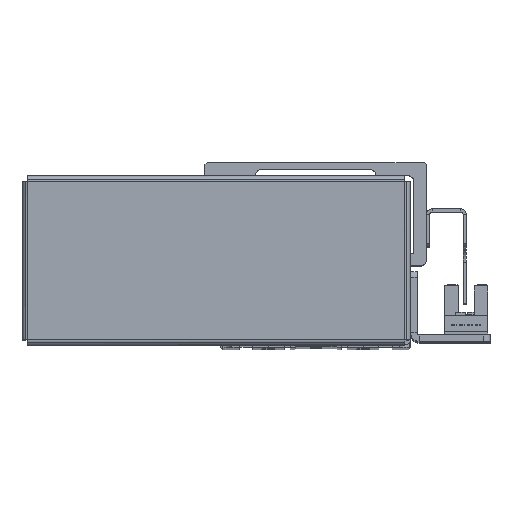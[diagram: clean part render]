
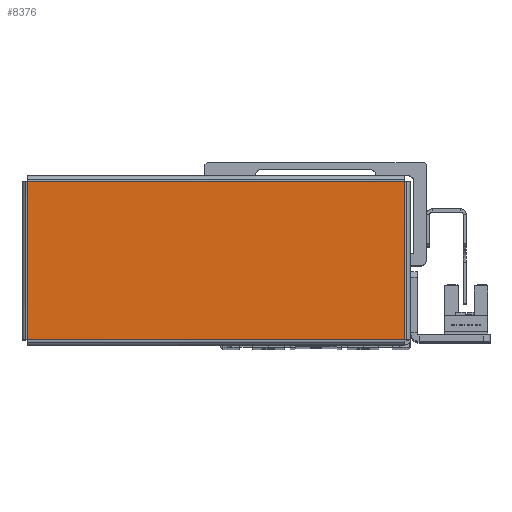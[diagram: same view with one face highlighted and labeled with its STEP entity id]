
A CAD part, top view. The second image highlights one B-rep face of the part: STEP entity #8376.
In plain terms, the highlighted planar face has unit normal (0, 0, 1) as drawn and (0, 0, -1) by its records, which use the part's own axes.
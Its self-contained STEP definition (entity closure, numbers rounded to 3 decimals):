
#1415 = AXIS2_PLACEMENT_3D ( 'NONE', #12495, #12518, #12519 ) ;
#3443 = EDGE_LOOP ( 'NONE', ( #6567, #6573, #6556, #6574 ) ) ;
#3540 = VERTEX_POINT ( 'NONE', #11900 ) ;
#3543 = VERTEX_POINT ( 'NONE', #11913 ) ;
#3580 = VERTEX_POINT ( 'NONE', #11962 ) ;
#3603 = VERTEX_POINT ( 'NONE', #11953 ) ;
#6556 = ORIENTED_EDGE ( 'NONE', *, *, #28101, .T. ) ;
#6567 = ORIENTED_EDGE ( 'NONE', *, *, #28210, .T. ) ;
#6573 = ORIENTED_EDGE ( 'NONE', *, *, #28187, .T. ) ;
#6574 = ORIENTED_EDGE ( 'NONE', *, *, #28133, .T. ) ;
#8376 = ADVANCED_FACE ( 'NONE', ( #10421 ), #12498, .F. ) ;
#10421 = FACE_OUTER_BOUND ( 'NONE', #3443, .T. ) ;
#11900 = CARTESIAN_POINT ( 'NONE',  ( -59.513, 25.013, -1. ) ) ;
#11913 = CARTESIAN_POINT ( 'NONE',  ( 59.513, 25.013, -1. ) ) ;
#11953 = CARTESIAN_POINT ( 'NONE',  ( 59.513, -25.013, -1. ) ) ;
#11962 = CARTESIAN_POINT ( 'NONE',  ( -59.513, -25.013, -1. ) ) ;
#12495 = CARTESIAN_POINT ( 'NONE',  ( 0., 0., -1. ) ) ;
#12498 = PLANE ( 'NONE',  #1415 ) ;
#12518 = DIRECTION ( 'NONE',  ( 0., 0., 1. ) ) ;
#12519 = DIRECTION ( 'NONE',  ( 1., 0., 0. ) ) ;
#17114 = DIRECTION ( 'NONE',  ( 0., 1., 0. ) ) ;
#17142 = CARTESIAN_POINT ( 'NONE',  ( -59.513, -25.043, -1. ) ) ;
#17256 = DIRECTION ( 'NONE',  ( 1., 0., 0. ) ) ;
#17267 = CARTESIAN_POINT ( 'NONE',  ( -59.543, 25.013, -1. ) ) ;
#17366 = DIRECTION ( 'NONE',  ( -1., 0., 0. ) ) ;
#17386 = CARTESIAN_POINT ( 'NONE',  ( 59.543, -25.013, -1. ) ) ;
#17424 = CARTESIAN_POINT ( 'NONE',  ( 59.513, 25.043, -1. ) ) ;
#17435 = DIRECTION ( 'NONE',  ( 0., -1., 0. ) ) ;
#18866 = LINE ( 'NONE', #17142, #18892 ) ;
#18892 = VECTOR ( 'NONE', #17114, 1000. ) ;
#18902 = LINE ( 'NONE', #17267, #18936 ) ;
#18936 = VECTOR ( 'NONE', #17256, 1000. ) ;
#18983 = LINE ( 'NONE', #17386, #18984 ) ;
#18984 = VECTOR ( 'NONE', #17366, 1000. ) ;
#19064 = LINE ( 'NONE', #17424, #19065 ) ;
#19065 = VECTOR ( 'NONE', #17435, 1000. ) ;
#28101 = EDGE_CURVE ( 'NONE', #3580, #3540, #18866, .T. ) ;
#28133 = EDGE_CURVE ( 'NONE', #3540, #3543, #18902, .T. ) ;
#28187 = EDGE_CURVE ( 'NONE', #3603, #3580, #18983, .T. ) ;
#28210 = EDGE_CURVE ( 'NONE', #3543, #3603, #19064, .T. ) ;
